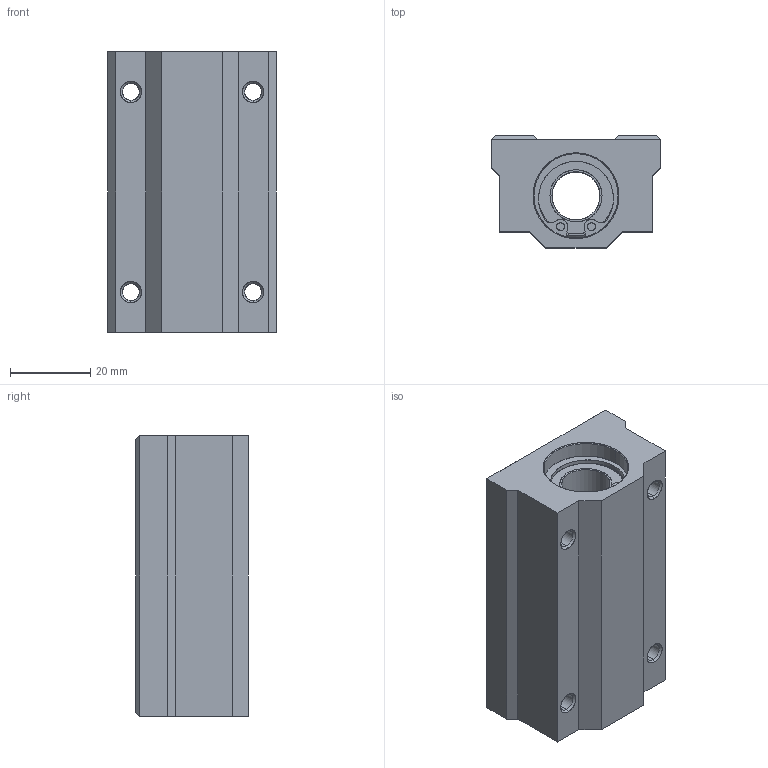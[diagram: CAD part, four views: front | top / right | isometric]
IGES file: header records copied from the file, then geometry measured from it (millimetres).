
Start section: SolidWorks IGES file using analytic representation for surfaces
Global section: file name: D:\SOLIDWORKS PROEKTI\freelance cnc cat\VTORA SERIJA\SC-LUU\SC12LUU.IGS; native system: SolidWorks 2016; preprocessor: SolidWorks 2016; author: User; date: 170806.102011; units: millimetre
Bounding box: 42 x 28 x 70 mm (x, y, z)
Surface area: 24740.1 mm2 (no closed solid volume)
Topology: 0 solids, 0 shells, 436 faces, 10272 edges, 12486 vertices
Faces by surface type: bspline 298, revolution 138
